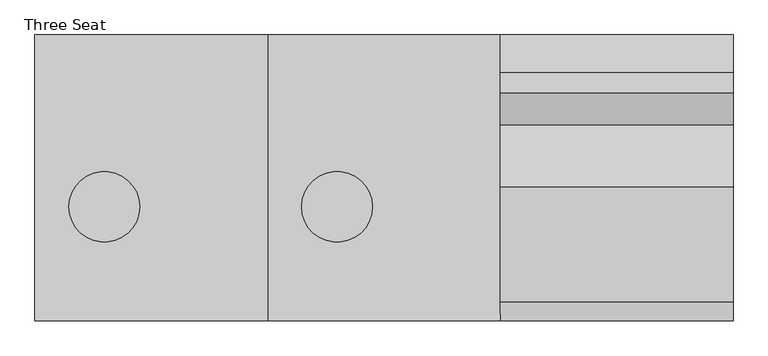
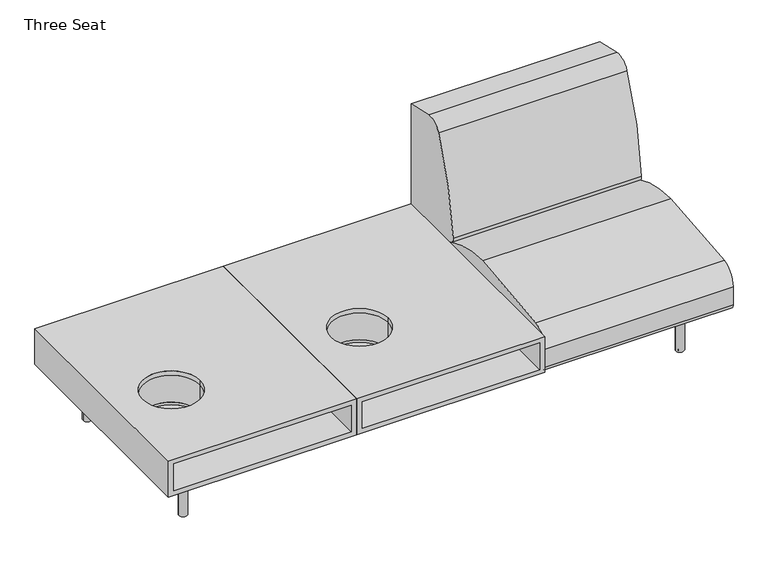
"""IFC4 building model written with IfcOpenShell, lengths in millimetres: furniture geometry, Coalesse_AM_Seating_LoungeChair_Sistema_LegBase_ThreeSeat : Three Seat."""

from ifc_helpers import new_model, si_unit, point, frame, frame_2d, origin, origin_with_axes, place, context, project, spatial, polyline, circle_curve, trimmed, segment, composite_curve, outline, extrude, source, transform, mapped, element, save
from ifc_brep_helpers import plane_surface, revolved_surface, advanced_brep


def three_seat_70c7b8ac(model_context):
    return source(origin(), model_context, "Body", "SolidModel", [
        advanced_brep(
        [(-353.0071698, -461.2704381, 336.5211742), (-353.0071698, -461.2704381, 223.173587), (-353.0071698, 459.4795619, 223.173587), (-353.0071698, 459.4795619, 336.5211742), (353.6069667, -461.2704381, 336.5211742), (353.6069667, 459.4795619, 336.5211742), (-37.7047777, -93.7879891, 336.5211742), (-265.0667966, -93.7879891, 336.5211742), (374.4965227, -461.2704381, 354.7774), (-374.8034773, -461.2704381, 354.7774), (-374.8034773, -461.2704381, 204.47), (374.4965227, -461.2704381, 204.47), (353.6069667, -461.2704381, 223.173587), (374.4965227, 459.4795619, 354.7774), (374.4965227, 459.4795619, 204.47), (-374.8034773, 459.4795619, 204.47), (-374.8034773, 459.4795619, 354.7774), (353.6069667, 459.4795619, 223.173587), (-265.0667966, -93.7879891, 354.7774), (-37.7047777, -93.7879891, 354.7774), (-265.0667966, -93.7879891, 223.173587), (-37.7047777, -93.7879891, 223.173587), (-265.0667966, -93.7879891, 212.4123377), (-37.7047777, -93.7879891, 212.4123377)],
        [
            (0, 1),
            (1, 2),
            (2, 3),
            (3, 0),
            (4, 0),
            (3, 5),
            (5, 4),
            (6, 7, circle_curve(frame((-151.3857872, -93.7879891, 336.5211742), z_axis=(0.0, 0.0, 1.0), x_axis=(1.0, 0.0, 0.0)), 113.6810095)),
            (7, 6, circle_curve(frame((-151.3857872, -93.7879891, 336.5211742), z_axis=(0.0, 0.0, 1.0), x_axis=(1.0, 0.0, 0.0)), 113.6810095)),
            (8, 9),
            (9, 10),
            (10, 11),
            (11, 8),
            (4, 12),
            (12, 1),
            (13, 14),
            (14, 15),
            (15, 16),
            (16, 13),
            (2, 17),
            (17, 5),
            (8, 13),
            (16, 9),
            (18, 19, circle_curve(frame((-151.3857872, -93.7879891, 354.7774), z_axis=(0.0, 0.0, -1.0), x_axis=(1.0, 0.0, 0.0)), 113.6810095)),
            (19, 18, circle_curve(frame((-151.3857872, -93.7879891, 354.7774), z_axis=(0.0, 0.0, -1.0), x_axis=(1.0, 0.0, 0.0)), 113.6810095)),
            (15, 10),
            (14, 11),
            (17, 12),
            (20, 21, circle_curve(frame((-151.3857872, -93.7879891, 223.173587), z_axis=(0.0, 0.0, -1.0), x_axis=(1.0, 0.0, 0.0)), 113.6810095)),
            (21, 20, circle_curve(frame((-151.3857872, -93.7879891, 223.173587), z_axis=(0.0, 0.0, -1.0), x_axis=(1.0, 0.0, 0.0)), 113.6810095)),
            (22, 23, circle_curve(frame((-151.3857872, -93.7879891, 212.4123377), z_axis=(0.0, 0.0, 1.0), x_axis=(1.0, 0.0, 0.0)), 113.6810095)),
            (23, 22, circle_curve(frame((-151.3857872, -93.7879891, 212.4123377), z_axis=(0.0, 0.0, 1.0), x_axis=(1.0, 0.0, 0.0)), 113.6810095)),
            (23, 21),
            (20, 22),
            (18, 7),
            (6, 19),
        ],
        [
            plane_surface(frame((-353.0071698, -461.2704381, 223.173587), z_axis=(1.0, 0.0, 0.0), x_axis=(0.0, 1.0, 0.0))),
            plane_surface(frame((-353.0071698, -461.2704381, 336.5211742), z_axis=(0.0, 0.0, -1.0), x_axis=(0.0, 1.0, 0.0))),
            plane_surface(frame((-371.2653576, -461.2704381, 354.7774), z_axis=(0.0, -1.0, 0.0), x_axis=(-1.0, 0.0, 0.0))),
            plane_surface(frame((-371.2653576, 459.4795619, 354.7774), z_axis=(0.0, 1.0, 0.0), x_axis=(1.0, 0.0, 0.0))),
            plane_surface(frame((374.4965227, -461.2704381, 354.7774), z_axis=(0.0, 0.0, 1.0), x_axis=(0.0, 1.0, 0.0))),
            plane_surface(frame((-374.8034773, -461.2704381, 354.7774), z_axis=(-1.0, 0.0, 0.0), x_axis=(0.0, 1.0, 0.0))),
            plane_surface(frame((-374.8034773, -461.2704381, 204.47), z_axis=(0.0, 0.0, -1.0), x_axis=(0.0, 1.0, 0.0))),
            plane_surface(frame((374.4965227, -461.2704381, 204.47), z_axis=(1.0, 0.0, 0.0), x_axis=(0.0, 1.0, 0.0))),
            plane_surface(frame((353.6069667, -461.2704381, 336.5211742), z_axis=(-1.0, 0.0, 0.0), x_axis=(0.0, 1.0, 0.0))),
            plane_surface(frame((353.6069667, -461.2704381, 223.173587), z_axis=(0.0, 0.0, 1.0), x_axis=(0.0, 1.0, 0.0))),
            plane_surface(frame((-37.7047777, -93.7879891, 212.4123377), z_axis=(0.0, 0.0, 1.0), x_axis=(0.0, -1.0, 0.0))),
            revolved_surface(polyline([(-37.70477770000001, -93.7879891, 212.4123377), (-37.70477770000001, -93.7879891, 223.173587)]), (-151.3857872, -93.7879891, 446.6108932), (0.0, 0.0, -1.0)),
            revolved_surface(polyline([(-37.70477770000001, -93.7879891, 336.5211742), (-37.70477770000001, -93.7879891, 354.7774)]), (-151.3857872, -93.7879891, 446.6108932), (0.0, 0.0, -1.0)),
        ],
        [
            (0, [[1, 2, 3, 4]]),
            (1, [[5, -4, 6, 7], [8, 9]]),
            (2, [[10, 11, 12, 13], [14, 15, -1, -5]]),
            (3, [[16, 17, 18, 19], [-6, -3, 20, 21]]),
            (4, [[-10, 22, -19, 23], [24, 25]]),
            (5, [[-11, -23, -18, 26]]),
            (6, [[-12, -26, -17, 27]]),
            (7, [[-13, -27, -16, -22]]),
            (8, [[-14, -7, -21, 28]]),
            (9, [[-15, -28, -20, -2], [29, 30]]),
            (10, [[31, 32]]),
            (11, [[-32, 33, -29, 34]]),
            (12, [[35, -8, 36, -24]]),
            (12, [[-35, -25, -36, -9]]),
            (11, [[-31, -34, -30, -33]]),
        ],
    ),
        extrude(outline(composite_curve([segment(trimmed(circle_curve(frame_2d((-151.3857872, -93.7879891)), 127.924967), [point((-279.3107542, -93.7879891))], [point((-23.4608201, -93.7879891))], False, "CARTESIAN"), True, "CONTINUOUS"), segment(trimmed(circle_curve(frame_2d((-151.3857872, -93.7879891)), 127.924967), [point((-23.4608201, -93.7879891))], [point((-279.3107542, -93.7879891))], False, "CARTESIAN"), True, "CONTINUOUS")], self_intersect=False), holes=[composite_curve([segment(trimmed(circle_curve(frame_2d((-151.3857872, -93.7879891)), 113.6810095), [point((-265.0667966, -93.7879891))], [point((-37.7047777, -93.7879891))], True, "CARTESIAN"), True, "CONTINUOUS"), segment(trimmed(circle_curve(frame_2d((-151.3857872, -93.7879891)), 113.6810095), [point((-37.7047777, -93.7879891))], [point((-265.0667966, -93.7879891))], True, "CARTESIAN"), True, "CONTINUOUS")], self_intersect=False)]), frame((0.0, 0.0, 212.4123377), z_axis=(0.0, 0.0, 1.0), x_axis=(1.0, 0.0, 0.0)), (0.0, 0.0, 1.0), 124.1087275),
        advanced_brep(
        [(1102.9069667, -461.2704381, 336.5211742), (396.2928302, -461.2704381, 336.5211742), (396.2928302, 459.4795619, 336.5211742), (1102.9069667, 459.4795619, 336.5211742), (711.5952223, -93.7879891, 336.5211742), (484.2332034, -93.7879891, 336.5211742), (396.2928302, -461.2704381, 223.173587), (396.2928302, 459.4795619, 223.173587), (1123.7965227, -461.2704381, 354.7774), (374.4965227, -461.2704381, 354.7774), (374.4965227, -461.2704381, 204.47), (1123.7965227, -461.2704381, 204.47), (1102.9069667, -461.2704381, 223.173587), (1123.7965227, 459.4795619, 354.7774), (1123.7965227, 459.4795619, 204.47), (374.4965227, 459.4795619, 204.47), (374.4965227, 459.4795619, 354.7774), (1102.9069667, 459.4795619, 223.173587), (484.2332034, -93.7879891, 354.7774), (711.5952223, -93.7879891, 354.7774), (484.2332034, -93.7879891, 223.173587), (711.5952223, -93.7879891, 223.173587), (484.2332034, -93.7879891, 212.4123377), (711.5952223, -93.7879891, 212.4123377)],
        [
            (0, 1),
            (1, 2),
            (2, 3),
            (3, 0),
            (4, 5, circle_curve(frame((597.9142128, -93.7879891, 336.5211742), z_axis=(0.0, 0.0, 1.0), x_axis=(1.0, 0.0, 0.0)), 113.6810095)),
            (5, 4, circle_curve(frame((597.9142128, -93.7879891, 336.5211742), z_axis=(0.0, 0.0, 1.0), x_axis=(1.0, 0.0, 0.0)), 113.6810095)),
            (1, 6),
            (6, 7),
            (7, 2),
            (8, 9),
            (9, 10),
            (10, 11),
            (11, 8),
            (0, 12),
            (12, 6),
            (13, 14),
            (14, 15),
            (15, 16),
            (16, 13),
            (7, 17),
            (17, 3),
            (8, 13),
            (16, 9),
            (18, 19, circle_curve(frame((597.9142128, -93.7879891, 354.7774), z_axis=(0.0, 0.0, -1.0), x_axis=(1.0, 0.0, 0.0)), 113.6810095)),
            (19, 18, circle_curve(frame((597.9142128, -93.7879891, 354.7774), z_axis=(0.0, 0.0, -1.0), x_axis=(1.0, 0.0, 0.0)), 113.6810095)),
            (15, 10),
            (14, 11),
            (17, 12),
            (20, 21, circle_curve(frame((597.9142128, -93.7879891, 223.173587), z_axis=(0.0, 0.0, -1.0), x_axis=(1.0, 0.0, 0.0)), 113.6810095)),
            (21, 20, circle_curve(frame((597.9142128, -93.7879891, 223.173587), z_axis=(0.0, 0.0, -1.0), x_axis=(1.0, 0.0, 0.0)), 113.6810095)),
            (22, 23, circle_curve(frame((597.9142128, -93.7879891, 212.4123377), z_axis=(0.0, 0.0, 1.0), x_axis=(1.0, 0.0, 0.0)), 113.6810095)),
            (23, 22, circle_curve(frame((597.9142128, -93.7879891, 212.4123377), z_axis=(0.0, 0.0, 1.0), x_axis=(1.0, 0.0, 0.0)), 113.6810095)),
            (23, 21),
            (20, 22),
            (18, 5),
            (4, 19),
        ],
        [
            plane_surface(frame((396.2928302, -461.2704381, 336.5211742), z_axis=(0.0, 0.0, -1.0), x_axis=(0.0, 1.0, 0.0))),
            plane_surface(frame((396.2928302, -461.2704381, 223.173587), z_axis=(1.0, 0.0, 0.0), x_axis=(0.0, 1.0, 0.0))),
            plane_surface(frame((378.0346424, -461.2704381, 354.7774), z_axis=(0.0, -1.0, 0.0), x_axis=(-1.0, 0.0, 0.0))),
            plane_surface(frame((378.0346424, 459.4795619, 354.7774), z_axis=(0.0, 1.0, 0.0), x_axis=(1.0, 0.0, 0.0))),
            plane_surface(frame((1123.7965227, -461.2704381, 354.7774), z_axis=(0.0, 0.0, 1.0), x_axis=(0.0, 1.0, 0.0))),
            plane_surface(frame((374.4965227, -461.2704381, 354.7774), z_axis=(-1.0, 0.0, 0.0), x_axis=(0.0, 1.0, 0.0))),
            plane_surface(frame((374.4965227, -461.2704381, 204.47), z_axis=(0.0, 0.0, -1.0), x_axis=(0.0, 1.0, 0.0))),
            plane_surface(frame((1123.7965227, -461.2704381, 204.47), z_axis=(1.0, 0.0, 0.0), x_axis=(0.0, 1.0, 0.0))),
            plane_surface(frame((1102.9069667, -461.2704381, 336.5211742), z_axis=(-1.0, 0.0, 0.0), x_axis=(0.0, 1.0, 0.0))),
            plane_surface(frame((1102.9069667, -461.2704381, 223.173587), z_axis=(0.0, 0.0, 1.0), x_axis=(0.0, 1.0, 0.0))),
            plane_surface(frame((711.5952223, -93.7879891, 212.4123377), z_axis=(0.0, 0.0, 1.0), x_axis=(0.0, -1.0, 0.0))),
            revolved_surface(polyline([(711.5952222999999, -93.7879891, 212.41233770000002), (711.5952222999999, -93.7879891, 223.173587)]), (597.9142128, -93.7879891, 496.2226929), (0.0, 0.0, -1.0)),
            revolved_surface(polyline([(711.5952222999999, -93.7879891, 336.5211742), (711.5952222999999, -93.7879891, 354.7774)]), (597.9142128, -93.7879891, 496.2226929), (0.0, 0.0, -1.0)),
        ],
        [
            (0, [[1, 2, 3, 4], [5, 6]]),
            (1, [[7, 8, 9, -2]]),
            (2, [[10, 11, 12, 13], [14, 15, -7, -1]]),
            (3, [[16, 17, 18, 19], [-3, -9, 20, 21]]),
            (4, [[-10, 22, -19, 23], [24, 25]]),
            (5, [[-11, -23, -18, 26]]),
            (6, [[-12, -26, -17, 27]]),
            (7, [[-13, -27, -16, -22]]),
            (8, [[-14, -4, -21, 28]]),
            (9, [[-15, -28, -20, -8], [29, 30]]),
            (10, [[31, 32]]),
            (11, [[-32, 33, -29, 34]]),
            (12, [[35, -5, 36, -24]]),
            (11, [[-31, -34, -30, -33]]),
            (12, [[-35, -25, -36, -6]]),
        ],
    ),
        extrude(outline(composite_curve([segment(trimmed(circle_curve(frame_2d((597.9142128, -93.7879891)), 127.924967), [point((469.9892458, -93.7879891))], [point((725.8391799, -93.7879891))], False, "CARTESIAN"), True, "CONTINUOUS"), segment(trimmed(circle_curve(frame_2d((597.9142128, -93.7879891)), 127.924967), [point((725.8391799, -93.7879891))], [point((469.9892458, -93.7879891))], False, "CARTESIAN"), True, "CONTINUOUS")], self_intersect=False), holes=[composite_curve([segment(trimmed(circle_curve(frame_2d((597.9142128, -93.7879891)), 113.6810095), [point((484.2332034, -93.7879891))], [point((711.5952223, -93.7879891))], True, "CARTESIAN"), True, "CONTINUOUS"), segment(trimmed(circle_curve(frame_2d((597.9142128, -93.7879891)), 113.6810095), [point((711.5952223, -93.7879891))], [point((484.2332034, -93.7879891))], True, "CARTESIAN"), True, "CONTINUOUS")], self_intersect=False)]), frame((0.0, 0.0, 212.4123377), z_axis=(0.0, 0.0, 1.0), x_axis=(1.0, 0.0, 0.0)), (0.0, 0.0, 1.0), 124.1087275),
        extrude(outline(composite_curve([segment(polyline([(459.4795619, 775.8234697), (459.4795619, 228.1929806)]), True, "CONTINUOUS"), segment(trimmed(circle_curve(frame_2d((191.495971, 228.1929806)), 267.983591), [point((459.4795619, 228.1929806))], [point((458.9860775, 211.937276))], False, "CARTESIAN"), True, "CONTINUOUS"), segment(polyline([(458.9860775, 211.937276), (183.8457951, 360.6719742)]), True, "CONTINUOUS"), segment(trimmed(circle_curve(frame_2d((195.9245701, 383.0161724)), 25.4), [point((183.8457951, 360.6719742))], [point((170.6161698, 385.1713698))], False, "CARTESIAN"), True, "CONTINUOUS"), segment(trimmed(circle_curve(frame_2d((1327.5544182, 286.6495247)), 1161.1256023), [point((170.6161698, 385.1713698))], [point((271.1088001, 768.4537592))], False, "CARTESIAN"), True, "CONTINUOUS"), segment(trimmed(circle_curve(frame_2d((326.5730192, 743.158661)), 60.96), [point((271.1088001, 768.4537592))], [point((339.9143278, 802.6408523))], False, "CARTESIAN"), True, "CONTINUOUS"), segment(polyline([(339.9143278, 802.6408523), (459.4795619, 775.8234697)]), True, "CONTINUOUS")], self_intersect=False)), frame((1123.7965227, 0.0, 0.0), z_axis=(1.0, 0.0, 0.0), x_axis=(0.0, 1.0, 0.0)), (0.0, 0.0, 1.0), 749.3),
        extrude(outline(composite_curve([segment(trimmed(circle_curve(frame_2d((-438.9184381, 226.822)), 22.352), [point((-438.9184381, 204.47))], [point((-461.2704381, 226.822))], False, "CARTESIAN"), True, "CONTINUOUS"), segment(polyline([(-461.2704381, 226.822), (-461.2704381, 301.4421993)]), True, "CONTINUOUS"), segment(trimmed(circle_curve(frame_2d((-385.0704381, 301.4421993)), 76.2), [point((-461.2704381, 301.4421993))], [point((-398.9277015, 376.3716077))], False, "CARTESIAN"), True, "CONTINUOUS"), segment(trimmed(circle_curve(frame_2d((2.2103559, -1792.6740646)), 2205.8265729), [point((-398.9277015, 376.3716077))], [point((-31.1968175, 412.8995185))], False, "CARTESIAN"), True, "CONTINUOUS"), segment(trimmed(circle_curve(frame_2d((-24.5128424, -28.3829182)), 441.333054), [point((-31.1968175, 412.8995185))], [point((184.5757008, 360.2774035))], False, "CARTESIAN"), True, "CONTINUOUS"), segment(polyline([(184.5757008, 360.2774035), (458.9860775, 211.937276)]), True, "CONTINUOUS"), segment(trimmed(circle_curve(frame_2d((442.3266309, 226.7871991)), 22.3171991), [point((458.9860775, 211.937276))], [point((442.3266309, 204.47))], False, "CARTESIAN"), True, "CONTINUOUS"), segment(polyline([(442.3266309, 204.47), (-438.9184381, 204.47)]), True, "CONTINUOUS")], self_intersect=False)), frame((1123.7965227, 0.0, 0.0), z_axis=(1.0, 0.0, 0.0), x_axis=(0.0, 1.0, 0.0)), (0.0, 0.0, 1.0), 749.3),
        extrude(outline(composite_curve([segment(trimmed(circle_curve(frame_2d((1738.4765227, 335.9943389)), 6.096), [point((1744.5725227, 335.9943389))], [point((1732.3805227, 335.9943389))], False, "CARTESIAN"), True, "CONTINUOUS"), segment(trimmed(circle_curve(frame_2d((1738.4765227, 335.9943389)), 6.096), [point((1732.3805227, 335.9943389))], [point((1744.5725227, 335.9943389))], False, "CARTESIAN"), True, "CONTINUOUS")], self_intersect=False)), origin_with_axes(), (0.0, 0.0, 1.0), 4.3662291),
        extrude(outline(composite_curve([segment(trimmed(circle_curve(frame_2d((1738.4765227, -327.2630889)), 6.096), [point((1744.5725227, -327.2630889))], [point((1732.3805227, -327.2630889))], False, "CARTESIAN"), True, "CONTINUOUS"), segment(trimmed(circle_curve(frame_2d((1738.4765227, -327.2630889)), 6.096), [point((1732.3805227, -327.2630889))], [point((1744.5725227, -327.2630889))], False, "CARTESIAN"), True, "CONTINUOUS")], self_intersect=False)), origin_with_axes(), (0.0, 0.0, 1.0), 4.3662291),
        extrude(outline(composite_curve([segment(polyline([(157.0399209, 1751.056375), (201.7356243, 1751.056375)]), True, "CONTINUOUS"), segment(trimmed(circle_curve(frame_2d((201.7356243, 1748.008375)), 3.048), [point((201.7356243, 1751.056375))], [point((204.7836243, 1748.008375))], False, "CARTESIAN"), True, "CONTINUOUS"), segment(polyline([(204.7836243, 1748.008375), (204.7836243, 1728.666199)]), True, "CONTINUOUS"), segment(trimmed(circle_curve(frame_2d((201.7356243, 1728.666199)), 3.048), [point((204.7836243, 1728.666199))], [point((201.7356243, 1725.618199))], False, "CARTESIAN"), True, "CONTINUOUS"), segment(polyline([(201.7356243, 1725.618199), (157.1249936, 1725.618199)]), True, "CONTINUOUS"), segment(trimmed(circle_curve(frame_2d((157.1249936, 1728.7512718)), 3.1330728), [point((157.1249936, 1725.618199))], [point((153.9919209, 1728.7512718))], False, "CARTESIAN"), True, "CONTINUOUS"), segment(polyline([(153.9919209, 1728.7512718), (153.9919209, 1748.008375)]), True, "CONTINUOUS"), segment(trimmed(circle_curve(frame_2d((157.0399209, 1748.008375)), 3.048), [point((153.9919209, 1748.008375))], [point((157.0399209, 1751.056375))], False, "CARTESIAN"), True, "CONTINUOUS")], self_intersect=False)), frame((0.0, 222.3519802, 0.0), z_axis=(0.0, 1.0, 0.0), x_axis=(0.0, 0.0, 1.0)), (0.0, 0.0, 1.0), 92.6273161),
        extrude(outline(composite_curve([segment(polyline([(157.0399209, 1751.056375), (201.7356243, 1751.056375)]), True, "CONTINUOUS"), segment(trimmed(circle_curve(frame_2d((201.7356243, 1748.008375)), 3.048), [point((201.7356243, 1751.056375))], [point((204.7836243, 1748.008375))], False, "CARTESIAN"), True, "CONTINUOUS"), segment(polyline([(204.7836243, 1748.008375), (204.7836243, 1728.666199)]), True, "CONTINUOUS"), segment(trimmed(circle_curve(frame_2d((201.7356243, 1728.666199)), 3.048), [point((204.7836243, 1728.666199))], [point((201.7356243, 1725.618199))], False, "CARTESIAN"), True, "CONTINUOUS"), segment(polyline([(201.7356243, 1725.618199), (157.1249936, 1725.618199)]), True, "CONTINUOUS"), segment(trimmed(circle_curve(frame_2d((157.1249936, 1728.7512718)), 3.1330728), [point((157.1249936, 1725.618199))], [point((153.9919209, 1728.7512718))], False, "CARTESIAN"), True, "CONTINUOUS"), segment(polyline([(153.9919209, 1728.7512718), (153.9919209, 1748.008375)]), True, "CONTINUOUS"), segment(trimmed(circle_curve(frame_2d((157.0399209, 1748.008375)), 3.048), [point((153.9919209, 1748.008375))], [point((157.0399209, 1751.056375))], False, "CARTESIAN"), True, "CONTINUOUS")], self_intersect=False)), frame((0.0, -314.9792963, 0.0), z_axis=(0.0, 1.0, 0.0), x_axis=(0.0, 0.0, 1.0)), (0.0, 0.0, 1.0), 92.6273161),
        extrude(outline(composite_curve([segment(trimmed(circle_curve(frame_2d((176.3356606, 1715.8259944)), 3.048), [point((179.3836606, 1715.8259944))], [point((176.3356606, 1712.7779944))], False, "CARTESIAN"), True, "CONTINUOUS"), segment(polyline([(176.3356606, 1712.7779944), (157.0399209, 1712.7779944)]), True, "CONTINUOUS"), segment(trimmed(circle_curve(frame_2d((157.0399209, 1715.8259944)), 3.048), [point((157.0399209, 1712.7779944))], [point((153.9919209, 1715.8259944))], False, "CARTESIAN"), True, "CONTINUOUS"), segment(polyline([(153.9919209, 1715.8259944), (153.9919209, 1760.5135501)]), True, "CONTINUOUS"), segment(trimmed(circle_curve(frame_2d((157.056462, 1760.5135501)), 3.0645412), [point((153.9919209, 1760.5135501))], [point((157.056462, 1763.5780913))], False, "CARTESIAN"), True, "CONTINUOUS"), segment(polyline([(157.056462, 1763.5780913), (176.3356606, 1763.5780913)]), True, "CONTINUOUS"), segment(trimmed(circle_curve(frame_2d((176.3356606, 1760.5300913)), 3.048), [point((176.3356606, 1763.5780913))], [point((179.3836606, 1760.5300913))], False, "CARTESIAN"), True, "CONTINUOUS"), segment(polyline([(179.3836606, 1760.5300913), (179.3836606, 1715.8259944)]), True, "CONTINUOUS")], self_intersect=False)), frame((0.0, -222.3519802, 0.0), z_axis=(0.0, 1.0, 0.0), x_axis=(0.0, 0.0, 1.0)), (0.0, 0.0, 1.0), 444.7039604),
        extrude(outline(composite_curve([segment(trimmed(circle_curve(frame_2d((1738.4765227, 332.3095741)), 16.51), [point((1754.9865227, 332.3095741))], [point((1721.9665227, 332.3095741))], False, "CARTESIAN"), True, "CONTINUOUS"), segment(trimmed(circle_curve(frame_2d((1738.4765227, 332.3095741)), 16.51), [point((1721.9665227, 332.3095741))], [point((1754.9865227, 332.3095741))], False, "CARTESIAN"), True, "CONTINUOUS")], self_intersect=False)), frame((0.0, 0.0, 4.3662291), z_axis=(0.0, 0.0, 1.0), x_axis=(1.0, 0.0, 0.0)), (0.0, 0.0, 1.0), 200.1037709),
        extrude(outline(composite_curve([segment(trimmed(circle_curve(frame_2d((1738.0796477, -327.5470741)), 16.51), [point((1754.5896477, -327.5470741))], [point((1721.5696477, -327.5470741))], False, "CARTESIAN"), True, "CONTINUOUS"), segment(trimmed(circle_curve(frame_2d((1738.0796477, -327.5470741)), 16.51), [point((1721.5696477, -327.5470741))], [point((1754.5896477, -327.5470741))], False, "CARTESIAN"), True, "CONTINUOUS")], self_intersect=False)), frame((0.0, 0.0, 4.3662291), z_axis=(0.0, 0.0, 1.0), x_axis=(1.0, 0.0, 0.0)), (0.0, 0.0, 1.0), 200.1037709),
        extrude(outline(composite_curve([segment(trimmed(circle_curve(frame_2d((-240.1834773, 335.9943389)), 6.096), [point((-246.2794773, 335.9943389))], [point((-234.0874773, 335.9943389))], False, "CARTESIAN"), True, "CONTINUOUS"), segment(trimmed(circle_curve(frame_2d((-240.1834773, 335.9943389)), 6.096), [point((-234.0874773, 335.9943389))], [point((-246.2794773, 335.9943389))], False, "CARTESIAN"), True, "CONTINUOUS")], self_intersect=False)), origin_with_axes(), (0.0, 0.0, 1.0), 4.3662291),
        extrude(outline(composite_curve([segment(trimmed(circle_curve(frame_2d((-240.1834773, -327.2630889)), 6.096), [point((-246.2794773, -327.2630889))], [point((-234.0874773, -327.2630889))], False, "CARTESIAN"), True, "CONTINUOUS"), segment(trimmed(circle_curve(frame_2d((-240.1834773, -327.2630889)), 6.096), [point((-234.0874773, -327.2630889))], [point((-246.2794773, -327.2630889))], False, "CARTESIAN"), True, "CONTINUOUS")], self_intersect=False)), origin_with_axes(), (0.0, 0.0, 1.0), 4.3662291),
        extrude(outline(composite_curve([segment(trimmed(circle_curve(frame_2d((157.0399209, -249.7153296)), 3.048), [point((157.0399209, -252.7633296))], [point((153.9919209, -249.7153296))], False, "CARTESIAN"), True, "CONTINUOUS"), segment(polyline([(153.9919209, -249.7153296), (153.9919209, -230.4582264)]), True, "CONTINUOUS"), segment(trimmed(circle_curve(frame_2d((157.1249936, -230.4582264)), 3.1330728), [point((153.9919209, -230.4582264))], [point((157.1249936, -227.3251537))], False, "CARTESIAN"), True, "CONTINUOUS"), segment(polyline([(157.1249936, -227.3251537), (201.7356243, -227.3251537)]), True, "CONTINUOUS"), segment(trimmed(circle_curve(frame_2d((201.7356243, -230.3731537)), 3.048), [point((201.7356243, -227.3251537))], [point((204.7836243, -230.3731537))], False, "CARTESIAN"), True, "CONTINUOUS"), segment(polyline([(204.7836243, -230.3731537), (204.7836243, -249.7153296)]), True, "CONTINUOUS"), segment(trimmed(circle_curve(frame_2d((201.7356243, -249.7153296)), 3.048), [point((204.7836243, -249.7153296))], [point((201.7356243, -252.7633296))], False, "CARTESIAN"), True, "CONTINUOUS"), segment(polyline([(201.7356243, -252.7633296), (157.0399209, -252.7633296)]), True, "CONTINUOUS")], self_intersect=False)), frame((0.0, 222.3519802, 0.0), z_axis=(0.0, 1.0, 0.0), x_axis=(0.0, 0.0, 1.0)), (0.0, 0.0, 1.0), 92.6273161),
        extrude(outline(composite_curve([segment(trimmed(circle_curve(frame_2d((157.0399209, -249.7153296)), 3.048), [point((157.0399209, -252.7633296))], [point((153.9919209, -249.7153296))], False, "CARTESIAN"), True, "CONTINUOUS"), segment(polyline([(153.9919209, -249.7153296), (153.9919209, -230.4582264)]), True, "CONTINUOUS"), segment(trimmed(circle_curve(frame_2d((157.1249936, -230.4582264)), 3.1330728), [point((153.9919209, -230.4582264))], [point((157.1249936, -227.3251537))], False, "CARTESIAN"), True, "CONTINUOUS"), segment(polyline([(157.1249936, -227.3251537), (201.7356243, -227.3251537)]), True, "CONTINUOUS"), segment(trimmed(circle_curve(frame_2d((201.7356243, -230.3731537)), 3.048), [point((201.7356243, -227.3251537))], [point((204.7836243, -230.3731537))], False, "CARTESIAN"), True, "CONTINUOUS"), segment(polyline([(204.7836243, -230.3731537), (204.7836243, -249.7153296)]), True, "CONTINUOUS"), segment(trimmed(circle_curve(frame_2d((201.7356243, -249.7153296)), 3.048), [point((204.7836243, -249.7153296))], [point((201.7356243, -252.7633296))], False, "CARTESIAN"), True, "CONTINUOUS"), segment(polyline([(201.7356243, -252.7633296), (157.0399209, -252.7633296)]), True, "CONTINUOUS")], self_intersect=False)), frame((0.0, -314.9792963, 0.0), z_axis=(0.0, 1.0, 0.0), x_axis=(0.0, 0.0, 1.0)), (0.0, 0.0, 1.0), 92.6273161),
        extrude(outline(composite_curve([segment(polyline([(179.3836606, -217.532949), (179.3836606, -262.2370459)]), True, "CONTINUOUS"), segment(trimmed(circle_curve(frame_2d((176.3356606, -262.2370459)), 3.048), [point((179.3836606, -262.2370459))], [point((176.3356606, -265.2850459))], False, "CARTESIAN"), True, "CONTINUOUS"), segment(polyline([(176.3356606, -265.2850459), (157.056462, -265.2850459)]), True, "CONTINUOUS"), segment(trimmed(circle_curve(frame_2d((157.056462, -262.2205047)), 3.0645412), [point((157.056462, -265.2850459))], [point((153.9919209, -262.2205047))], False, "CARTESIAN"), True, "CONTINUOUS"), segment(polyline([(153.9919209, -262.2205047), (153.9919209, -217.532949)]), True, "CONTINUOUS"), segment(trimmed(circle_curve(frame_2d((157.0399209, -217.532949)), 3.048), [point((153.9919209, -217.532949))], [point((157.0399209, -214.484949))], False, "CARTESIAN"), True, "CONTINUOUS"), segment(polyline([(157.0399209, -214.484949), (176.3356606, -214.484949)]), True, "CONTINUOUS"), segment(trimmed(circle_curve(frame_2d((176.3356606, -217.532949)), 3.048), [point((176.3356606, -214.484949))], [point((179.3836606, -217.532949))], False, "CARTESIAN"), True, "CONTINUOUS")], self_intersect=False)), frame((0.0, -222.3519802, 0.0), z_axis=(0.0, 1.0, 0.0), x_axis=(0.0, 0.0, 1.0)), (0.0, 0.0, 1.0), 444.7039604),
        extrude(outline(composite_curve([segment(trimmed(circle_curve(frame_2d((-240.1834773, 332.3095741)), 16.51), [point((-256.6934773, 332.3095741))], [point((-223.6734773, 332.3095741))], False, "CARTESIAN"), True, "CONTINUOUS"), segment(trimmed(circle_curve(frame_2d((-240.1834773, 332.3095741)), 16.51), [point((-223.6734773, 332.3095741))], [point((-256.6934773, 332.3095741))], False, "CARTESIAN"), True, "CONTINUOUS")], self_intersect=False)), frame((0.0, 0.0, 4.3662291), z_axis=(0.0, 0.0, 1.0), x_axis=(1.0, 0.0, 0.0)), (0.0, 0.0, 1.0), 200.1037709),
        extrude(outline(composite_curve([segment(trimmed(circle_curve(frame_2d((-239.7866023, -327.5470741)), 16.51), [point((-256.2966023, -327.5470741))], [point((-223.2766023, -327.5470741))], False, "CARTESIAN"), True, "CONTINUOUS"), segment(trimmed(circle_curve(frame_2d((-239.7866023, -327.5470741)), 16.51), [point((-223.2766023, -327.5470741))], [point((-256.2966023, -327.5470741))], False, "CARTESIAN"), True, "CONTINUOUS")], self_intersect=False)), frame((0.0, 0.0, 4.3662291), z_axis=(0.0, 0.0, 1.0), x_axis=(1.0, 0.0, 0.0)), (0.0, 0.0, 1.0), 200.1037709),
    ])


if __name__ == "__main__":
    model = new_model("IFC4")
    model_context = context("Model", 3, world=origin())
    ifc_project = project(units=[si_unit("LENGTHUNIT", "METRE", prefix="MILLI")], contexts=[model_context])
    site = spatial("IfcSite", under=ifc_project)
    building = spatial("IfcBuilding", under=site)
    placement = place(None, origin())
    three_seat_shape = three_seat_70c7b8ac(model_context)
    element("IfcFurniture", 1, ObjectType="Coalesse_AM_Seating_LoungeChair_Sistema_LegBase_ThreeSeat : Three Seat", at=placement, inside=building, context=model_context, shape_type="MappedRepresentation", body=[
        mapped(three_seat_shape, transform((0.0, 0.0, 0.0), x_axis=(1.0, 0.0, 0.0), y_axis=(0.0, 1.0, 0.0), z_axis=(0.0, 0.0, 1.0))),
    ])
    save(model, "model.ifc")
